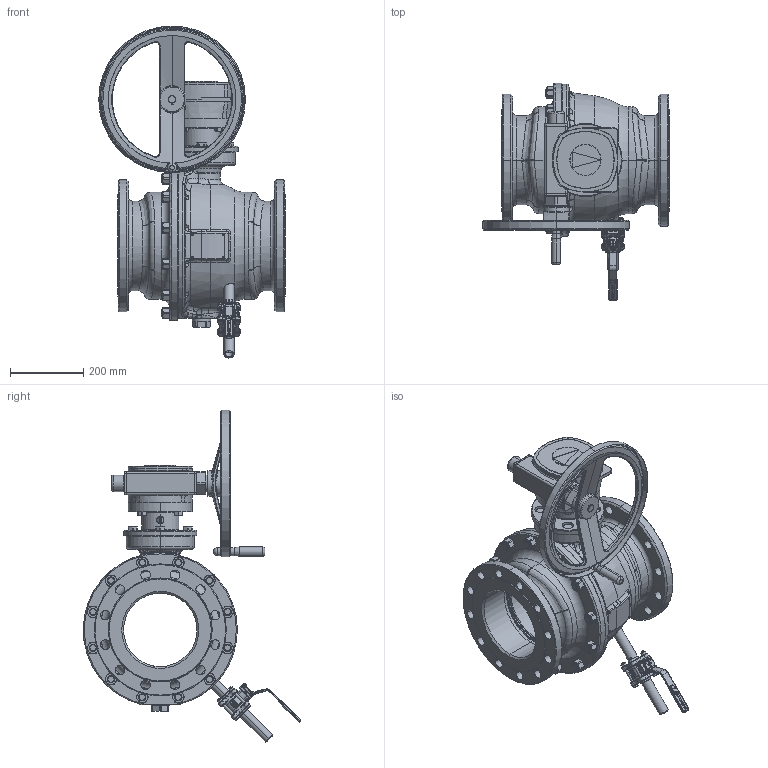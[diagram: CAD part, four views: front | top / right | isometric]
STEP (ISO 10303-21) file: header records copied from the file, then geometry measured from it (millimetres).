
FILE_DESCRIPTION((''),'2;1');
FILE_NAME('250_ASM','2017-01-17T',('schwaba'),('RAND'),'PRO/ENGINEER BY PARAMETRIC TECHNOLOGY CORPORATION, 2016100','PRO/ENGINEER BY PARAMETRIC TECHNOLOGY CORPORATION, 2016100','');
FILE_SCHEMA(('CONFIG_CONTROL_DESIGN'));
Products named in the file (3): KHI_200_PN25_FR_WE_ENTL_O_IT; GS80_F14_AHR400_ZWSTK_DN200; 250_ASM
Assembly tree (2 placements, depth 2):
  250_ASM
    KHI_200_PN25_FR_WE_ENTL_O_IT
    GS80_F14_AHR400_ZWSTK_DN200
Bounding box: 508.5 x 592.83 x 905.16 mm (x, y, z)
Volume: 23362041.1 mm3; surface area: 2813261.9 mm2
Topology: 3 solids, 11 shells, 4498 faces, 11151 edges, 6814 vertices
Faces by surface type: plane 1751, cylinder 988, cone 640, bspline 599, torus 457, sphere 63
Entity records: 244860 total; most frequent: CARTESIAN_POINT 141802, ORIENTED_EDGE 22190, DIRECTION 20734, EDGE_CURVE 11095, AXIS2_PLACEMENT_3D 7798, VERTEX_POINT 6814, VECTOR 5138, LINE 5138
